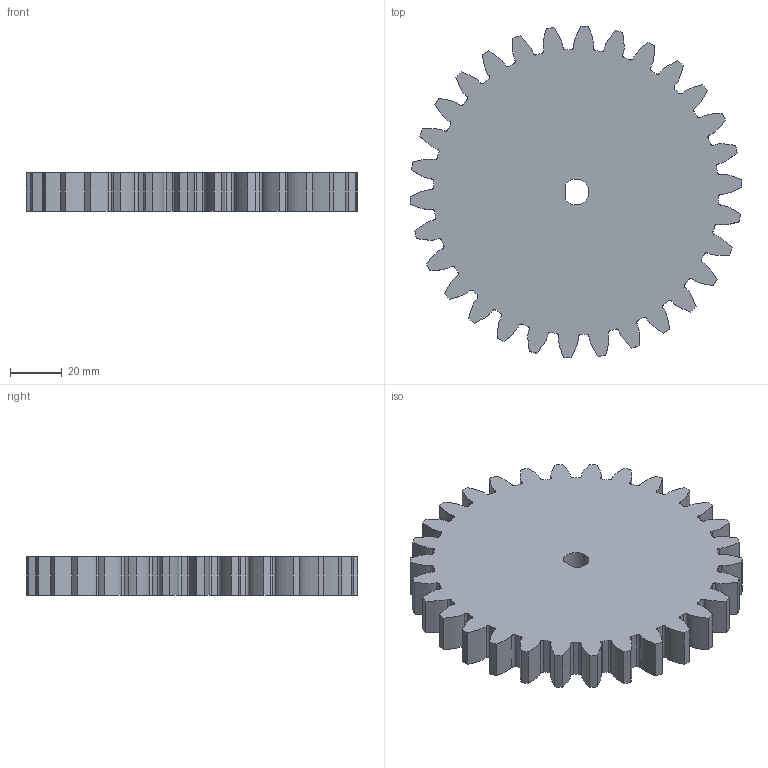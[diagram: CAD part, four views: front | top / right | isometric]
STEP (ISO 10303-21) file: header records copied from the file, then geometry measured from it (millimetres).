
FILE_DESCRIPTION (( 'STEP AP203' ), '1' );
FILE_NAME ('Pignon denture droite m=4 Z=30.STEP', '2025-09-18T12:05:04', ( '' ), ( '' ), 'SwSTEP 2.0', 'SolidWorks 2019', '' );
FILE_SCHEMA (( 'CONFIG_CONTROL_DESIGN' ));
Length unit declared in the file: millimetre
Products named in the file (1): Pignon denture droite m=4 Z=30
Bounding box: 127.95 x 127.94 x 15 mm (x, y, z)
Volume: 166379.9 mm3; surface area: 34029.1 mm2
Topology: 1 solids, 1 shells, 199 faces, 591 edges, 394 vertices
Faces by surface type: cylinder 136, bspline 60, plane 3
Entity records: 7718 total; most frequent: CARTESIAN_POINT 2445, ORIENTED_EDGE 1182, DIRECTION 1023, EDGE_CURVE 591, AXIS2_PLACEMENT_3D 412, VERTEX_POINT 394, CIRCLE 272, EDGE_LOOP 201
